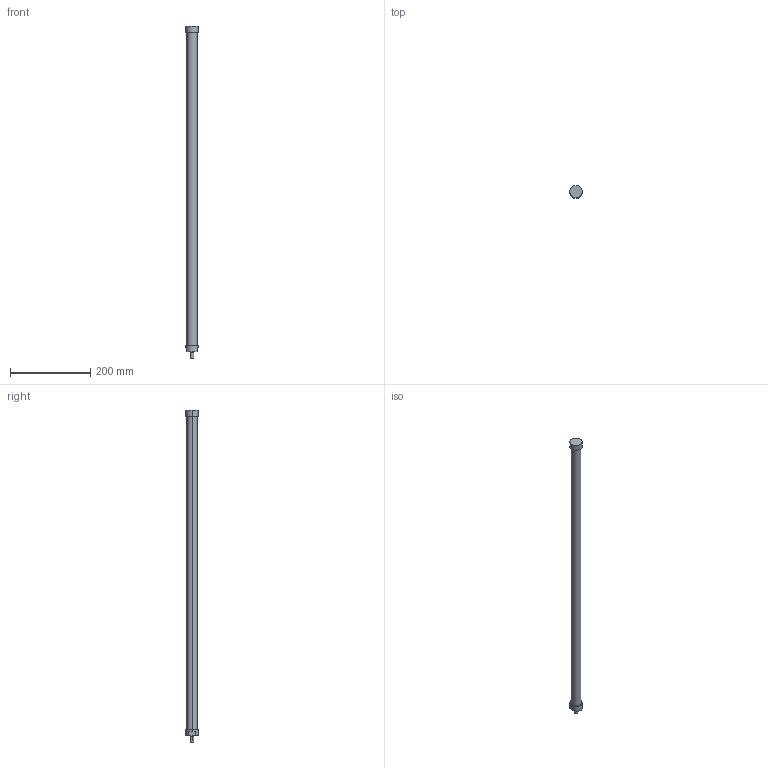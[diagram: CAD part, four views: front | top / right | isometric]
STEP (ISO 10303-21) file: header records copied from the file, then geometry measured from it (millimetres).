
FILE_DESCRIPTION(('STEP AP214'),'1');
FILE_NAME('ETT-R050M824.stp','2015-02-02T15:23:11',(' '),(' '),'Spatial InterOp 3D',' ',' ');
FILE_SCHEMA(('automotive_design'));
Length unit declared in the file: metre
Products named in the file (2): 1; 2
Bounding box: 31 x 31 x 829 mm (x, y, z)
Volume: 407669.6 mm3; surface area: 67168.4 mm2
Topology: 1 solids, 4 shells, 20 faces, 48 edges, 36 vertices
Faces by surface type: cylinder 10, plane 10
Entity records: 812 total; most frequent: DIRECTION 120, CARTESIAN_POINT 106, ORIENTED_EDGE 84, AXIS2_PLACEMENT_3D 50, EDGE_CURVE 48, VERTEX_POINT 36, CIRCLE 28, EDGE_LOOP 24
